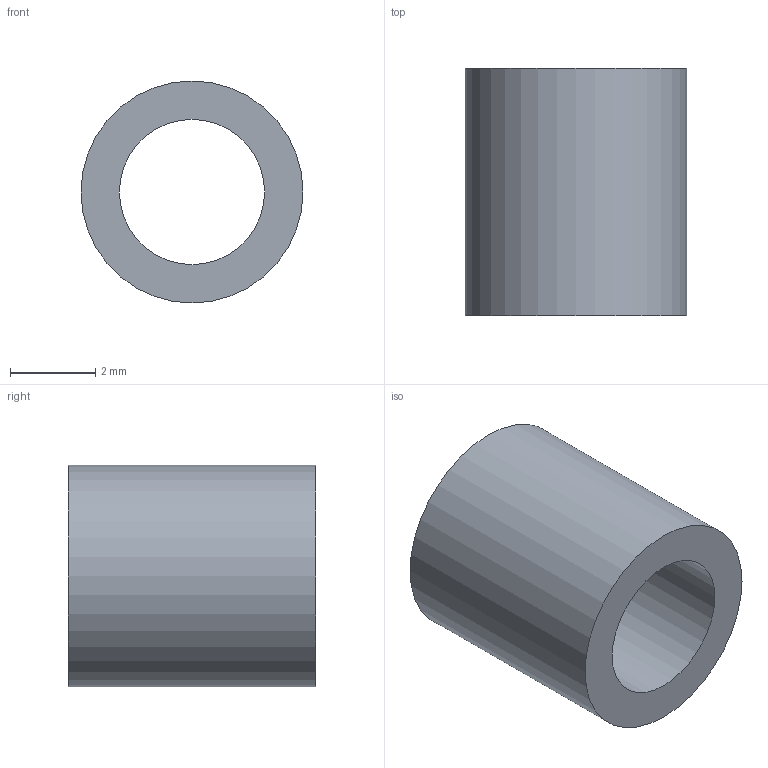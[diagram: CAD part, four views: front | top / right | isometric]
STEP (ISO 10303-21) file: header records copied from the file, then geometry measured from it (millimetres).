
FILE_DESCRIPTION(('Open CASCADE Model'),'2;1');
FILE_NAME('S12-S12_roller_spacer.step', '', ('Noah Wilson'), (''), '', '', '');
FILE_SCHEMA(('AUTOMOTIVE_DESIGN { 1 0 10303 214 1 1 1 1 }'));
Length unit declared in the file: millimetre
Products named in the file (1): COMPOUND
Bounding box: 5.2 x 5.8 x 5.2 mm (x, y, z)
Volume: 70.5 mm3; surface area: 181 mm2
Topology: 1 solids, 1 shells, 4 faces, 6 edges, 4 vertices
Faces by surface type: cylinder 2, plane 2
Full cylindrical faces by diameter (mm): 3.4 x1, 5.2 x1
Entity records: 186 total; most frequent: DIRECTION 32, CARTESIAN_POINT 27, ORIENTED_EDGE 12, PCURVE 12, DEFINITIONAL_REPRESENTATION 12, LINE 10, VECTOR 10, AXIS2_PLACEMENT_3D 9
